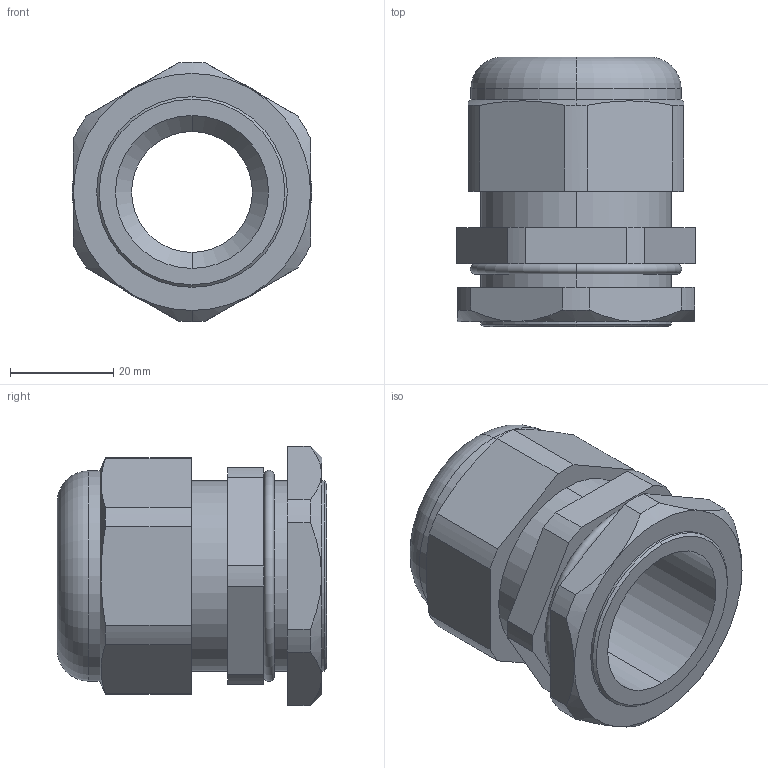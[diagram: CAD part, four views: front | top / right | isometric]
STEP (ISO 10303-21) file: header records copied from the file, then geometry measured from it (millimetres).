
FILE_DESCRIPTION (( 'STEP AP203' ), '1' );
FILE_NAME ('CH-PG29.STEP', '2018-02-07T14:36:08', ( '' ), ( '' ), 'SwSTEP 2.0', 'SolidWorks 2012', '' );
FILE_SCHEMA (( 'CONFIG_CONTROL_DESIGN' ));
Length unit declared in the file: millimetre
Products named in the file (1): CH-PG29
Bounding box: 46.28 x 52.2 x 50.29 mm (x, y, z)
Volume: 42319.8 mm3; surface area: 15490.8 mm2
Topology: 1 solids, 1 shells, 78 faces, 189 edges, 118 vertices
Faces by surface type: cylinder 34, plane 25, cone 15, torus 4
Entity records: 2486 total; most frequent: CARTESIAN_POINT 540, DIRECTION 415, ORIENTED_EDGE 378, EDGE_CURVE 189, AXIS2_PLACEMENT_3D 165, VERTEX_POINT 118, CIRCLE 86, VECTOR 85
